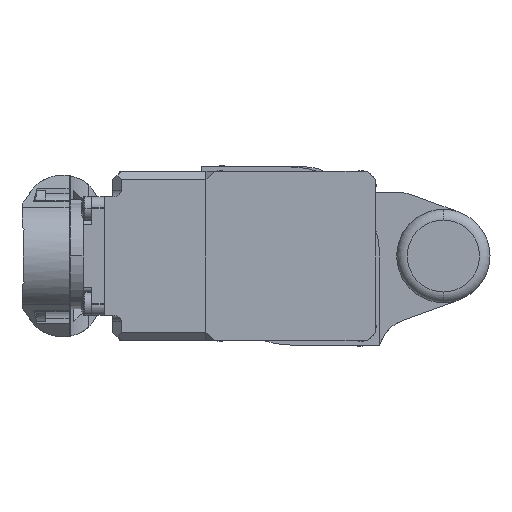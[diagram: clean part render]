
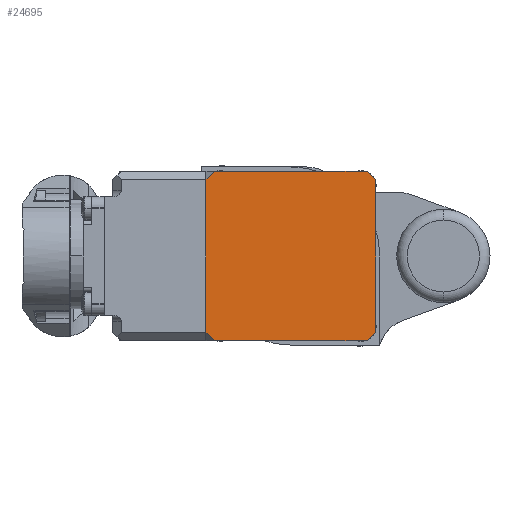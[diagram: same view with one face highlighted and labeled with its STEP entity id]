
A CAD part, left-side view. The second image highlights one B-rep face of the part: STEP entity #24695.
In plain terms, the highlighted planar face has unit normal (-1, 0, 0).
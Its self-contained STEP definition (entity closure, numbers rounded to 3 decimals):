
#941 = CARTESIAN_POINT ( 'NONE',  ( -113., -18., -20. ) ) ;
#1789 = DIRECTION ( 'NONE',  ( 0., 0., -1. ) ) ;
#3302 = EDGE_LOOP ( 'NONE', ( #53218, #28097, #30495, #20169, #58409, #33273, #48054, #60029 ) ) ;
#4091 = CARTESIAN_POINT ( 'NONE',  ( -113., 0., 0. ) ) ;
#5243 = CARTESIAN_POINT ( 'NONE',  ( -113., -20., 18. ) ) ;
#7345 = EDGE_CURVE ( 'NONE', #64745, #24086, #28682, .T. ) ;
#9820 = VECTOR ( 'NONE', #33340, 1000. ) ;
#10125 = CARTESIAN_POINT ( 'NONE',  ( -113., 18., -20. ) ) ;
#10799 = EDGE_CURVE ( 'NONE', #24086, #72336, #47959, .T. ) ;
#13154 = EDGE_CURVE ( 'NONE', #26405, #72238, #58787, .T. ) ;
#16819 = CARTESIAN_POINT ( 'NONE',  ( -113., 20., -18. ) ) ;
#17935 = CARTESIAN_POINT ( 'NONE',  ( -113., 18., 20. ) ) ;
#18703 = FACE_OUTER_BOUND ( 'NONE', #3302, .T. ) ;
#19671 = VECTOR ( 'NONE', #1789, 1000. ) ;
#19902 = AXIS2_PLACEMENT_3D ( 'NONE', #4091, #37549, #54327 ) ;
#20132 = VECTOR ( 'NONE', #43084, 1000. ) ;
#20169 = ORIENTED_EDGE ( 'NONE', *, *, #56726, .T. ) ;
#23353 = DIRECTION ( 'NONE',  ( 0., 0., 1. ) ) ;
#23494 = VECTOR ( 'NONE', #71718, 1000. ) ;
#24086 = VERTEX_POINT ( 'NONE', #52973 ) ;
#24695 = ADVANCED_FACE ( 'NONE', ( #18703 ), #48755, .T. ) ;
#26405 = VERTEX_POINT ( 'NONE', #38227 ) ;
#27971 = CARTESIAN_POINT ( 'NONE',  ( -113., -18., 20. ) ) ;
#28097 = ORIENTED_EDGE ( 'NONE', *, *, #10799, .T. ) ;
#28682 = LINE ( 'NONE', #63169, #71423 ) ;
#28954 = DIRECTION ( 'NONE',  ( 0., 0.707, -0.707 ) ) ;
#29138 = VECTOR ( 'NONE', #28954, 1000. ) ;
#30495 = ORIENTED_EDGE ( 'NONE', *, *, #67264, .T. ) ;
#32809 = LINE ( 'NONE', #35210, #19671 ) ;
#33273 = ORIENTED_EDGE ( 'NONE', *, *, #43735, .T. ) ;
#33340 = DIRECTION ( 'NONE',  ( 0., 1., 0. ) ) ;
#33594 = CARTESIAN_POINT ( 'NONE',  ( -113., -18., 20. ) ) ;
#35210 = CARTESIAN_POINT ( 'NONE',  ( -113., 20., 18. ) ) ;
#35429 = DIRECTION ( 'NONE',  ( 0., -0.707, 0.707 ) ) ;
#37481 = CARTESIAN_POINT ( 'NONE',  ( -113., 20., -18. ) ) ;
#37549 = DIRECTION ( 'NONE',  ( -1., 0., 0. ) ) ;
#38227 = CARTESIAN_POINT ( 'NONE',  ( -113., 18., 20. ) ) ;
#43084 = DIRECTION ( 'NONE',  ( 0., -0.707, -0.707 ) ) ;
#43735 = EDGE_CURVE ( 'NONE', #72238, #67742, #32809, .T. ) ;
#46338 = VERTEX_POINT ( 'NONE', #10125 ) ;
#47608 = VERTEX_POINT ( 'NONE', #33594 ) ;
#47959 = LINE ( 'NONE', #56770, #60988 ) ;
#48054 = ORIENTED_EDGE ( 'NONE', *, *, #60720, .T. ) ;
#48073 = VECTOR ( 'NONE', #60218, 1000. ) ;
#48486 = CARTESIAN_POINT ( 'NONE',  ( -113., 20., 18. ) ) ;
#48755 = PLANE ( 'NONE',  #19902 ) ;
#48836 = CARTESIAN_POINT ( 'NONE',  ( -113., 18., -20. ) ) ;
#49070 = CARTESIAN_POINT ( 'NONE',  ( -113., -20., 18. ) ) ;
#49825 = LINE ( 'NONE', #49070, #48073 ) ;
#52572 = LINE ( 'NONE', #27971, #9820 ) ;
#52973 = CARTESIAN_POINT ( 'NONE',  ( -113., -20., -18. ) ) ;
#53203 = LINE ( 'NONE', #48836, #23494 ) ;
#53218 = ORIENTED_EDGE ( 'NONE', *, *, #7345, .T. ) ;
#54327 = DIRECTION ( 'NONE',  ( 0., 0., 1. ) ) ;
#56726 = EDGE_CURVE ( 'NONE', #47608, #26405, #52572, .T. ) ;
#56770 = CARTESIAN_POINT ( 'NONE',  ( -113., -20., -18. ) ) ;
#58409 = ORIENTED_EDGE ( 'NONE', *, *, #13154, .T. ) ;
#58787 = LINE ( 'NONE', #17935, #29138 ) ;
#60029 = ORIENTED_EDGE ( 'NONE', *, *, #61364, .T. ) ;
#60218 = DIRECTION ( 'NONE',  ( 0., 0.707, 0.707 ) ) ;
#60720 = EDGE_CURVE ( 'NONE', #67742, #46338, #66387, .T. ) ;
#60988 = VECTOR ( 'NONE', #23353, 1000. ) ;
#61364 = EDGE_CURVE ( 'NONE', #46338, #64745, #53203, .T. ) ;
#63169 = CARTESIAN_POINT ( 'NONE',  ( -113., -18., -20. ) ) ;
#64745 = VERTEX_POINT ( 'NONE', #941 ) ;
#66387 = LINE ( 'NONE', #37481, #20132 ) ;
#67264 = EDGE_CURVE ( 'NONE', #72336, #47608, #49825, .T. ) ;
#67742 = VERTEX_POINT ( 'NONE', #16819 ) ;
#71423 = VECTOR ( 'NONE', #35429, 1000. ) ;
#71718 = DIRECTION ( 'NONE',  ( 0., -1., 0. ) ) ;
#72238 = VERTEX_POINT ( 'NONE', #48486 ) ;
#72336 = VERTEX_POINT ( 'NONE', #5243 ) ;
